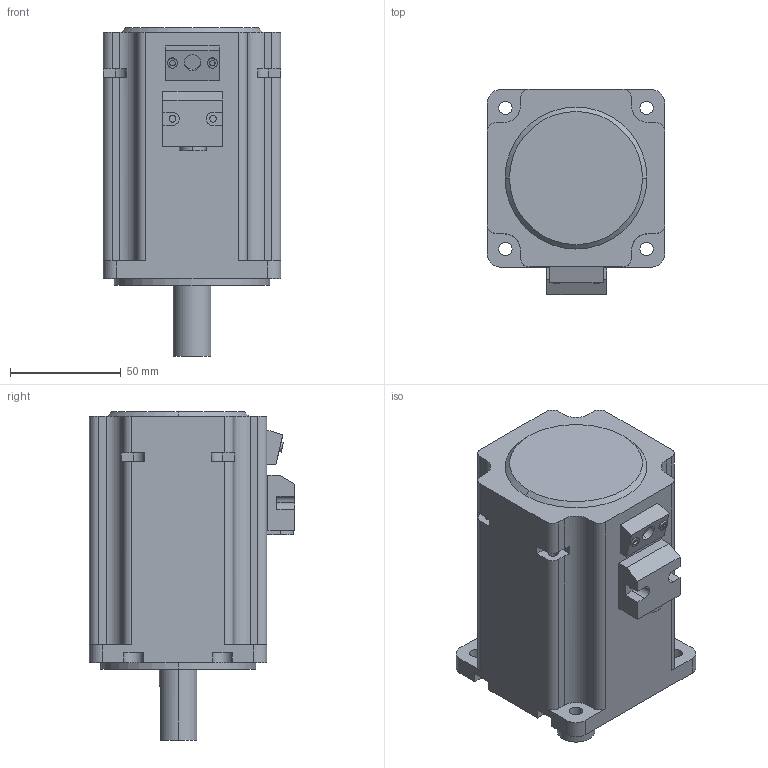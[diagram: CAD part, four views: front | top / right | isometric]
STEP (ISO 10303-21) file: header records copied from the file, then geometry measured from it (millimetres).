
FILE_DESCRIPTION (( 'STEP AP214' ), '1' );
FILE_NAME ('RSMA-M08J2430A(750W).STEP', '2021-04-09T09:21:37', ( '' ), ( '' ), 'SwSTEP 2.0', 'SolidWorks 2014', '' );
FILE_SCHEMA (( 'AUTOMOTIVE_DESIGN' ));
Length unit declared in the file: millimetre
Products named in the file (4): RSMA-M08J2430A(750W); 綴欶RSMA-M08J2430A(750W); 綴盄杶RSMA-M08J2430A(750W)
Assembly tree (3 placements, depth 2):
  RSMA-M08J2430A(750W)
    RSMA-M08J2430A(750W)
    綴欶RSMA-M08J2430A(750W)
    綴盄杶RSMA-M08J2430A(750W)
Bounding box: 80 x 92.5 x 148 mm (x, y, z)
Volume: 636871.9 mm3; surface area: 60064 mm2
Topology: 3 solids, 3 shells, 177 faces, 469 edges, 312 vertices
Faces by surface type: plane 95, cylinder 80, cone 2
Entity records: 5764 total; most frequent: DIRECTION 1006, CARTESIAN_POINT 997, ORIENTED_EDGE 938, EDGE_CURVE 469, AXIS2_PLACEMENT_3D 355, VERTEX_POINT 312, LINE 296, VECTOR 296
